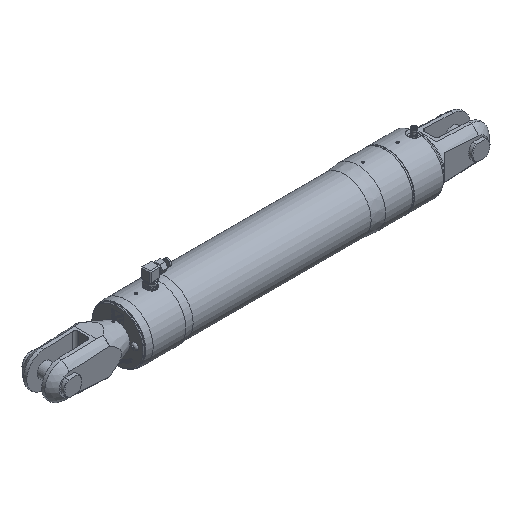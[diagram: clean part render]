
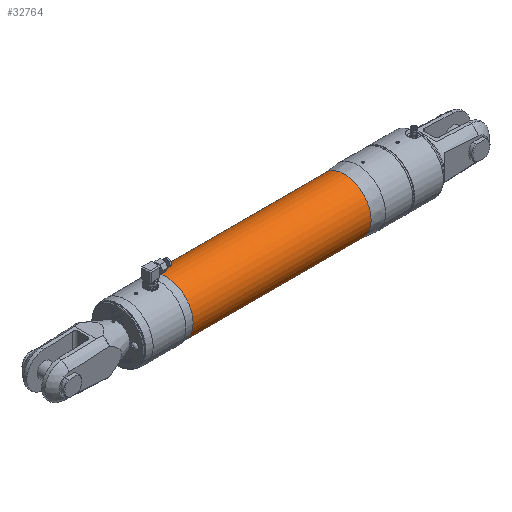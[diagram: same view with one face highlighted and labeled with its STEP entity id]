
A CAD part, isometric view. The second image highlights one B-rep face of the part: STEP entity #32764.
In plain terms, the highlighted cylindrical face has radius 57.2 mm (diameter 114.4 mm), a full revolution.
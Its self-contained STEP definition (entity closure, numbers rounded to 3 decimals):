
#1216=LINE('',#44193,#4172);
#4172=VECTOR('',#37107,57.2);
#7903=CYLINDRICAL_SURFACE('',#34764,57.2);
#8170=FACE_OUTER_BOUND('',#9959,.T.);
#9959=EDGE_LOOP('',(#22324,#22325,#22326,#22327,#22328,#22329));
#11836=CIRCLE('',#34762,57.2);
#11837=CIRCLE('',#34763,57.2);
#11838=CIRCLE('',#34765,57.2);
#11839=CIRCLE('',#34766,57.2);
#13626=VERTEX_POINT('',#44184);
#13627=VERTEX_POINT('',#44185);
#13628=VERTEX_POINT('',#44190);
#13629=VERTEX_POINT('',#44191);
#16988=EDGE_CURVE('',#13626,#13627,#11836,.T.);
#16990=EDGE_CURVE('',#13627,#13626,#11837,.T.);
#16991=EDGE_CURVE('',#13628,#13629,#11838,.T.);
#16992=EDGE_CURVE('',#13629,#13627,#1216,.T.);
#16993=EDGE_CURVE('',#13629,#13628,#11839,.T.);
#22324=ORIENTED_EDGE('',*,*,#16991,.T.);
#22325=ORIENTED_EDGE('',*,*,#16992,.T.);
#22326=ORIENTED_EDGE('',*,*,#16988,.F.);
#22327=ORIENTED_EDGE('',*,*,#16990,.F.);
#22328=ORIENTED_EDGE('',*,*,#16992,.F.);
#22329=ORIENTED_EDGE('',*,*,#16993,.T.);
#32764=ADVANCED_FACE('',(#8170),#7903,.T.);
#34762=AXIS2_PLACEMENT_3D('',#44186,#37098,#37099);
#34763=AXIS2_PLACEMENT_3D('',#44188,#37101,#37102);
#34764=AXIS2_PLACEMENT_3D('',#44189,#37103,#37104);
#34765=AXIS2_PLACEMENT_3D('',#44192,#37105,#37106);
#34766=AXIS2_PLACEMENT_3D('',#44194,#37108,#37109);
#37098=DIRECTION('center_axis',(1.,0.,0.));
#37099=DIRECTION('ref_axis',(0.,0.,-1.));
#37101=DIRECTION('center_axis',(1.,0.,0.));
#37102=DIRECTION('ref_axis',(0.,0.,-1.));
#37103=DIRECTION('center_axis',(1.,0.,0.));
#37104=DIRECTION('ref_axis',(0.,0.,
1.));
#37105=DIRECTION('center_axis',(1.,0.,0.));
#37106=DIRECTION('ref_axis',(0.,0.,-1.));
#37107=DIRECTION('',(1.,0.,0.));
#37108=DIRECTION('center_axis',(1.,0.,0.));
#37109=DIRECTION('ref_axis',(0.,0.,-1.));
#44184=CARTESIAN_POINT('',(-77.222,0.,57.2));
#44185=CARTESIAN_POINT('',(-77.222,0.,-57.2));
#44186=CARTESIAN_POINT('Origin',(-77.222,0.,
0.));
#44188=CARTESIAN_POINT('Origin',(-77.222,0.,
0.));
#44189=CARTESIAN_POINT('Origin',(-268.478,0.,
0.));
#44190=CARTESIAN_POINT('',(-459.734,0.,57.2));
#44191=CARTESIAN_POINT('',(-459.734,0.,-57.2));
#44192=CARTESIAN_POINT('Origin',(-459.734,0.,
0.));
#44193=CARTESIAN_POINT('',(-268.478,0.,-57.2));
#44194=CARTESIAN_POINT('Origin',(-459.734,0.,
0.));
